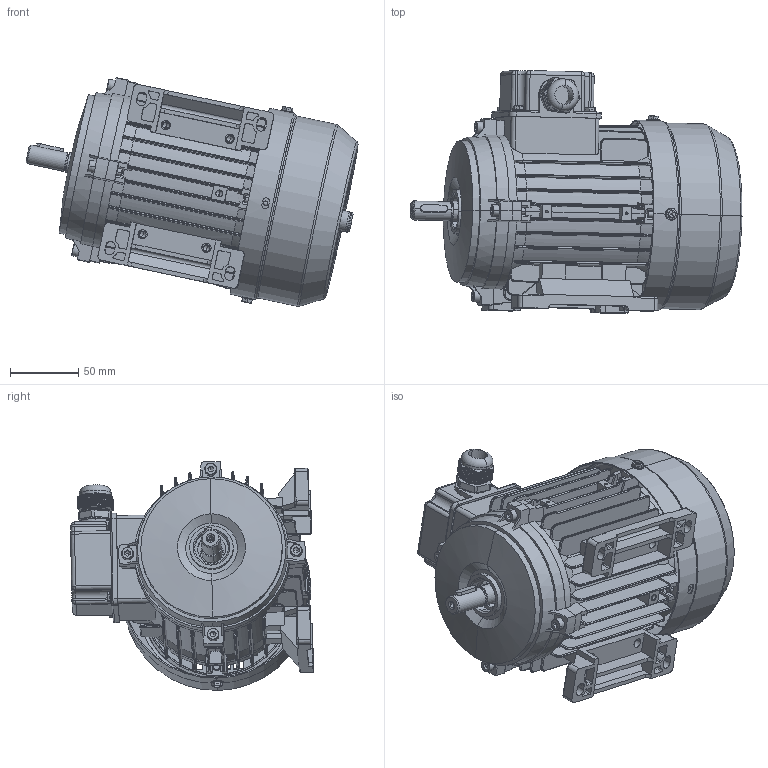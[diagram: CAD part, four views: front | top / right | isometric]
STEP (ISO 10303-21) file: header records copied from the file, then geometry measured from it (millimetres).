
FILE_DESCRIPTION (( 'STEP AP203' ), '1' );
FILE_NAME ('MSL71 assembly B3.STEP', '2017-11-26T09:36:42', ( 'user' ), ( 'china' ), 'SwSTEP 2.0', 'SolidWorks 2016', '' );
FILE_SCHEMA (( 'CONFIG_CONTROL_DESIGN' ));
Length unit declared in the file: millimetre
Products named in the file (14): M71-Shaft ; MSL71-儂褲-L114; GB-T 5780-2000 M5_020; MSL63-71堤盄碟蚾饜; M20 cable gland; M71瑞欶_69; M71傷裔B3_Post; GB-T 29.2-1988 M4鞠褒坋趼湍菜_05; M71菁褐; MS71 綴裔瑞欶郪磁; M71傷裔B3_Drive; GB-T 70.1-2000 M5_20; MSL71 assembly B3; MSL63-71堤盄碟
Assembly tree (26 placements, depth 3):
  MSL71 assembly B3
    MSL71-儂褲-L114
    M71菁褐  x2
    M71-Shaft 
    MS71 綴裔瑞欶郪磁
      M71傷裔B3_Post
      M71瑞欶_69
      GB-T 29.2-1988 M4鞠褒坋趼湍菜_05  x3
    M71傷裔B3_Drive
    MSL63-71堤盄碟蚾饜
      MSL63-71堤盄碟
      GB-T 29.2-1988 M4鞠褒坋趼湍菜_05  x4
      M20 cable gland
    GB-T 70.1-2000 M5_20  x4
    GB-T 5780-2000 M5_020  x4
Bounding box: 243.88 x 178.22 x 168.14 mm (x, y, z)
Volume: 524819.2 mm3; surface area: 409589.6 mm2
Topology: 24 solids, 24 shells, 3043 faces, 7784 edges, 4835 vertices
Faces by surface type: plane 1474, cylinder 960, cone 240, bspline 224, torus 145
Entity records: 99102 total; most frequent: CARTESIAN_POINT 37177, ORIENTED_EDGE 13148, DIRECTION 11753, EDGE_CURVE 6574, VERTEX_POINT 4164, AXIS2_PLACEMENT_3D 4058, LINE 3637, VECTOR 3637
